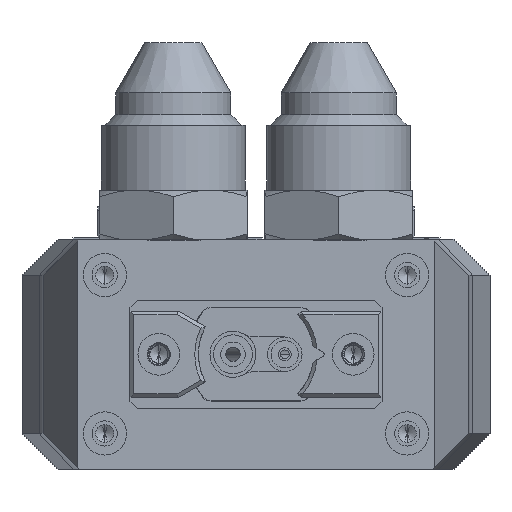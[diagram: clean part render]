
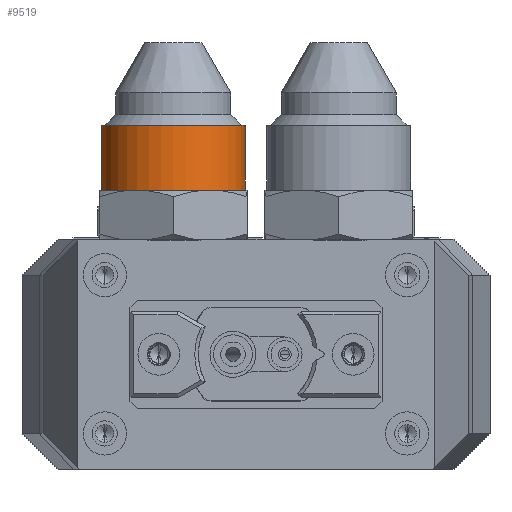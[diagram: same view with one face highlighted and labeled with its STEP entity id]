
A CAD part, front view. The second image highlights one B-rep face of the part: STEP entity #9519.
In plain terms, the highlighted cylindrical face has radius 10 mm (diameter 20 mm), a partial arc.
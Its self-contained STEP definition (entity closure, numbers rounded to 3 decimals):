
#3042 = CARTESIAN_POINT ( 'NONE',  ( -48.472, -161.12, 1030.303 ) ) ;
#4639 = CYLINDRICAL_SURFACE ( 'NONE', #27492, 10. ) ;
#4976 = FACE_OUTER_BOUND ( 'NONE', #56391, .T. ) ;
#6558 = CARTESIAN_POINT ( 'NONE',  ( -58.472, -161.12, 1052.575 ) ) ;
#6722 = CARTESIAN_POINT ( 'NONE',  ( -58.472, -161.12, 1021.303 ) ) ;
#6808 = EDGE_CURVE ( 'NONE', #58438, #53904, #22669, .T. ) ;
#6863 = VECTOR ( 'NONE', #12058, 1000. ) ;
#7201 = VERTEX_POINT ( 'NONE', #42399 ) ;
#9519 = ADVANCED_FACE ( 'NONE', ( #4976 ), #4639, .T. ) ;
#9611 = DIRECTION ( 'NONE',  ( 0., 0., 1. ) ) ;
#11396 = EDGE_CURVE ( 'NONE', #7201, #18181, #42111, .T. ) ;
#11548 = EDGE_CURVE ( 'NONE', #58438, #7201, #17386, .T. ) ;
#12058 = DIRECTION ( 'NONE',  ( 0., 0., 1. ) ) ;
#17386 = CIRCLE ( 'NONE', #25618, 10. ) ;
#18087 = AXIS2_PLACEMENT_3D ( 'NONE', #3042, #22991, #32620 ) ;
#18181 = VERTEX_POINT ( 'NONE', #39550 ) ;
#19476 = DIRECTION ( 'NONE',  ( 0., 0., 1. ) ) ;
#22669 = LINE ( 'NONE', #6558, #6863 ) ;
#22991 = DIRECTION ( 'NONE',  ( 0., 0., -1. ) ) ;
#25618 = AXIS2_PLACEMENT_3D ( 'NONE', #53666, #9611, #48836 ) ;
#27492 = AXIS2_PLACEMENT_3D ( 'NONE', #29104, #19476, #55352 ) ;
#27959 = ORIENTED_EDGE ( 'NONE', *, *, #6808, .F. ) ;
#29104 = CARTESIAN_POINT ( 'NONE',  ( -48.472, -161.12, 1052.575 ) ) ;
#29744 = VECTOR ( 'NONE', #46937, 1000. ) ;
#32620 = DIRECTION ( 'NONE',  ( 1., 0., 0. ) ) ;
#38937 = EDGE_CURVE ( 'NONE', #18181, #53904, #45768, .T. ) ;
#39062 = ORIENTED_EDGE ( 'NONE', *, *, #11548, .T. ) ;
#39550 = CARTESIAN_POINT ( 'NONE',  ( -38.472, -161.12, 1030.303 ) ) ;
#42111 = LINE ( 'NONE', #51126, #29744 ) ;
#42399 = CARTESIAN_POINT ( 'NONE',  ( -38.472, -161.12, 1021.303 ) ) ;
#45768 = CIRCLE ( 'NONE', #18087, 10. ) ;
#46054 = ORIENTED_EDGE ( 'NONE', *, *, #11396, .T. ) ;
#46937 = DIRECTION ( 'NONE',  ( 0., 0., 1. ) ) ;
#48836 = DIRECTION ( 'NONE',  ( 1., 0., 0. ) ) ;
#51126 = CARTESIAN_POINT ( 'NONE',  ( -38.472, -161.12, 1052.575 ) ) ;
#53666 = CARTESIAN_POINT ( 'NONE',  ( -48.472, -161.12, 1021.303 ) ) ;
#53904 = VERTEX_POINT ( 'NONE', #60546 ) ;
#55352 = DIRECTION ( 'NONE',  ( 1., 0., 0. ) ) ;
#55590 = ORIENTED_EDGE ( 'NONE', *, *, #38937, .T. ) ;
#56391 = EDGE_LOOP ( 'NONE', ( #27959, #39062, #46054, #55590 ) ) ;
#58438 = VERTEX_POINT ( 'NONE', #6722 ) ;
#60546 = CARTESIAN_POINT ( 'NONE',  ( -58.472, -161.12, 1030.303 ) ) ;
